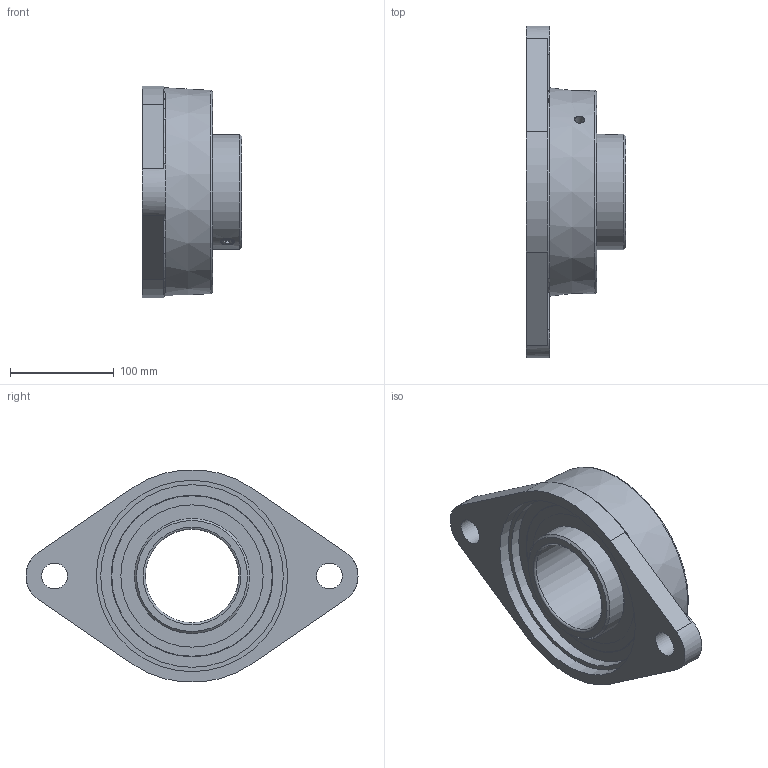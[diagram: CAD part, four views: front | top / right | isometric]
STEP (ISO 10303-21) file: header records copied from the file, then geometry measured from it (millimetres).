
FILE_DESCRIPTION (( 'STEP AP203' ), '1' );
FILE_NAME ('UCFL-218.STEP', '2019-03-08T12:14:16', ( '' ), ( '' ), 'SwSTEP 2.0', 'SolidWorks 2017', '' );
FILE_SCHEMA (( 'CONFIG_CONTROL_DESIGN' ));
Length unit declared in the file: millimetre
Products named in the file (1): UCFL-218
Bounding box: 96.3 x 320 x 204.24 mm (x, y, z)
Volume: 1508214.9 mm3; surface area: 222483.8 mm2
Topology: 2 solids, 3 shells, 92 faces, 208 edges, 140 vertices
Faces by surface type: plane 43, cylinder 23, cone 10, torus 9, sphere 7
Full cylindrical faces by diameter (mm): 1.85 x4, 8.917 x1, 12 x2, 25 x2, 90 x1, 111 x4, 137.163 x2, 176 x2, 184.5 x1
Entity records: 3056 total; most frequent: CARTESIAN_POINT 1150, DIRECTION 380, ORIENTED_EDGE 302, AXIS2_PLACEMENT_3D 158, EDGE_LOOP 156, EDGE_CURVE 151, VERTEX_POINT 119, FACE_OUTER_BOUND 118
